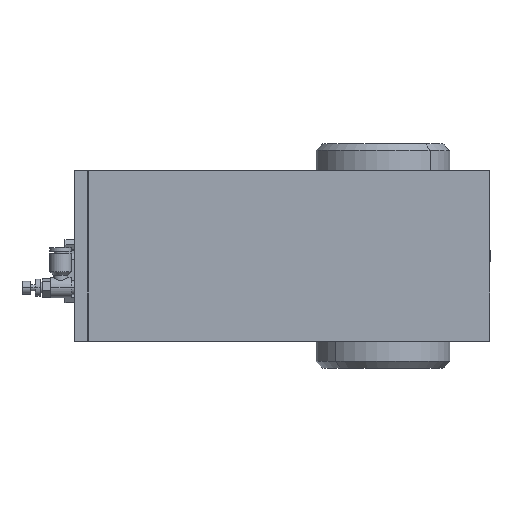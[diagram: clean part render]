
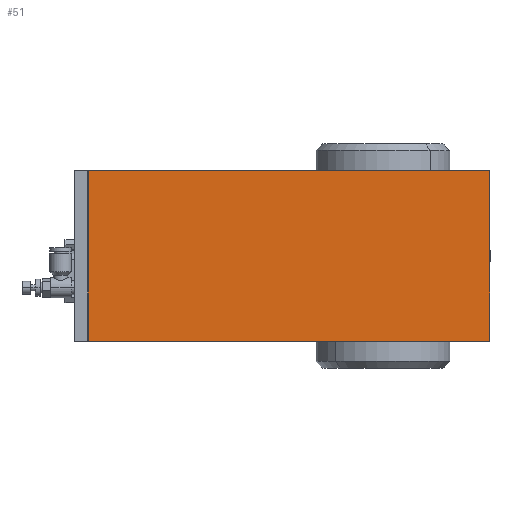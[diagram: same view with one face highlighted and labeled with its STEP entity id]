
A CAD part, top view. The second image highlights one B-rep face of the part: STEP entity #51.
In plain terms, the highlighted planar face has unit normal (0, 0, 1).
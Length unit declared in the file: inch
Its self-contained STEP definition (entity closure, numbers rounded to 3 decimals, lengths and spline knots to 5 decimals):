
#51 = ADVANCED_FACE ( 'NONE', ( #8393 ), #8072, .F. ) ;
#156 = VECTOR ( 'NONE', #6003, 39.37008 ) ;
#218 = AXIS2_PLACEMENT_3D ( 'NONE', #6971, #5738, #5695 ) ;
#362 = EDGE_CURVE ( 'NONE', #7142, #2023, #8098, .T. ) ;
#459 = CARTESIAN_POINT ( 'NONE',  ( -0.1745, 5.34305, 6.58122 ) ) ;
#733 = ORIENTED_EDGE ( 'NONE', *, *, #6196, .T. ) ;
#1872 = CARTESIAN_POINT ( 'NONE',  ( -0.1745, 2.15555, 6.58122 ) ) ;
#2023 = VERTEX_POINT ( 'NONE', #2375 ) ;
#2091 = VECTOR ( 'NONE', #5910, 39.37008 ) ;
#2189 = VERTEX_POINT ( 'NONE', #5551 ) ;
#2290 = LINE ( 'NONE', #1872, #2091 ) ;
#2337 = EDGE_CURVE ( 'NONE', #4337, #7142, #3947, .T. ) ;
#2375 = CARTESIAN_POINT ( 'NONE',  ( 7.3255, 5.34305, 6.58122 ) ) ;
#2706 = VECTOR ( 'NONE', #2899, 39.37008 ) ;
#2899 = DIRECTION ( 'NONE',  ( 0., 1., 0. ) ) ;
#3032 = CARTESIAN_POINT ( 'NONE',  ( -0.1745, 2.15555, 6.58122 ) ) ;
#3044 = ORIENTED_EDGE ( 'NONE', *, *, #362, .T. ) ;
#3165 = DIRECTION ( 'NONE',  ( -1., 0., 0. ) ) ;
#3702 = CARTESIAN_POINT ( 'NONE',  ( 7.3255, 2.15555, 6.58122 ) ) ;
#3810 = EDGE_CURVE ( 'NONE', #2023, #2189, #7539, .T. ) ;
#3947 = LINE ( 'NONE', #3032, #156 ) ;
#4337 = VERTEX_POINT ( 'NONE', #5112 ) ;
#4640 = ORIENTED_EDGE ( 'NONE', *, *, #3810, .T. ) ;
#5112 = CARTESIAN_POINT ( 'NONE',  ( -0.1745, 2.15555, 6.58122 ) ) ;
#5551 = CARTESIAN_POINT ( 'NONE',  ( -0.1745, 5.34305, 6.58122 ) ) ;
#5588 = ORIENTED_EDGE ( 'NONE', *, *, #2337, .T. ) ;
#5695 = DIRECTION ( 'NONE',  ( -1., 0., 0. ) ) ;
#5731 = VECTOR ( 'NONE', #3165, 39.37008 ) ;
#5738 = DIRECTION ( 'NONE',  ( 0., 0., -1. ) ) ;
#5910 = DIRECTION ( 'NONE',  ( 0., -1., 0. ) ) ;
#6003 = DIRECTION ( 'NONE',  ( 1., 0., 0. ) ) ;
#6196 = EDGE_CURVE ( 'NONE', #2189, #4337, #2290, .T. ) ;
#6971 = CARTESIAN_POINT ( 'NONE',  ( -0.1745, 5.34305, 6.58122 ) ) ;
#6980 = CARTESIAN_POINT ( 'NONE',  ( 7.3255, 2.15555, 6.58122 ) ) ;
#7142 = VERTEX_POINT ( 'NONE', #6980 ) ;
#7539 = LINE ( 'NONE', #459, #5731 ) ;
#8072 = PLANE ( 'NONE',  #218 ) ;
#8098 = LINE ( 'NONE', #3702, #2706 ) ;
#8174 = EDGE_LOOP ( 'NONE', ( #733, #5588, #3044, #4640 ) ) ;
#8393 = FACE_OUTER_BOUND ( 'NONE', #8174, .T. ) ;
